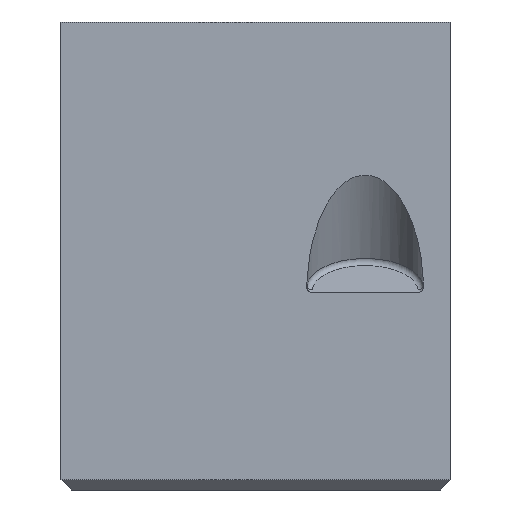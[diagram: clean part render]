
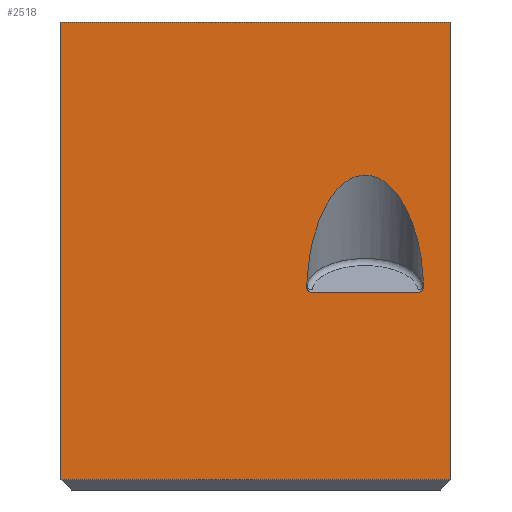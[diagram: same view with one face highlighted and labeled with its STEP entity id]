
A CAD part, left-side view. The second image highlights one B-rep face of the part: STEP entity #2518.
In plain terms, the highlighted planar face has unit normal (-1, 0, 0).
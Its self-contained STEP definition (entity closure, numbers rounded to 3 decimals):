
#203=DIRECTION('',(0.,1.,0.));
#204=VECTOR('',#203,15.);
#205=CARTESIAN_POINT('',(-3.,-15.,0.));
#206=LINE('',#205,#204);
#521=DIRECTION('',(0.,0.,-1.));
#522=VECTOR('',#521,17.6);
#523=CARTESIAN_POINT('',(-3.,-15.,0.));
#524=LINE('',#523,#522);
#525=DIRECTION('',(0.,1.,0.));
#526=VECTOR('',#525,15.);
#527=CARTESIAN_POINT('',(-3.,-15.,-17.6));
#528=LINE('',#527,#526);
#529=CARTESIAN_POINT('',(-3.,-13.941,-10.));
#530=CARTESIAN_POINT('',(-3.,-13.939,-9.933));
#531=CARTESIAN_POINT('',(-3.,-13.933,-9.83));
#532=CARTESIAN_POINT('',(-3.,-13.921,-9.665));
#533=CARTESIAN_POINT('',(-3.,-13.906,-9.505));
#534=CARTESIAN_POINT('',(-3.,-13.889,-9.347));
#535=CARTESIAN_POINT('',(-3.,-13.866,-9.165));
#536=CARTESIAN_POINT('',(-3.,-13.836,-8.975));
#537=CARTESIAN_POINT('',(-3.,-13.801,-8.78));
#538=CARTESIAN_POINT('',(-3.,-13.766,-8.609));
#539=CARTESIAN_POINT('',(-3.,-13.72,-8.404));
#540=CARTESIAN_POINT('',(-3.,-13.661,-8.181));
#541=CARTESIAN_POINT('',(-3.,-13.591,-7.95));
#542=CARTESIAN_POINT('',(-3.,-13.521,-7.746));
#543=CARTESIAN_POINT('',(-3.,-13.451,-7.564));
#544=CARTESIAN_POINT('',(-3.,-13.358,-7.344));
#545=CARTESIAN_POINT('',(-3.,-13.241,-7.106));
#546=CARTESIAN_POINT('',(-3.,-13.101,-6.865));
#547=CARTESIAN_POINT('',(-3.,-12.961,-6.66));
#548=CARTESIAN_POINT('',(-3.,-12.821,-6.486));
#549=CARTESIAN_POINT('',(-3.,-12.681,-6.338));
#550=CARTESIAN_POINT('',(-3.,-12.494,-6.173));
#551=CARTESIAN_POINT('',(-3.,-12.26,-6.021));
#552=CARTESIAN_POINT('',(-3.,-11.98,-5.915));
#553=CARTESIAN_POINT('',(-3.,-11.7,-5.881));
#554=CARTESIAN_POINT('',(-3.,-11.42,-5.915));
#555=CARTESIAN_POINT('',(-3.,-11.14,-6.021));
#556=CARTESIAN_POINT('',(-3.,-10.906,-6.173));
#557=CARTESIAN_POINT('',(-3.,-10.719,-6.338));
#558=CARTESIAN_POINT('',(-3.,-10.579,-6.486));
#559=CARTESIAN_POINT('',(-3.,-10.439,-6.66));
#560=CARTESIAN_POINT('',(-3.,-10.299,-6.865));
#561=CARTESIAN_POINT('',(-3.,-10.159,-7.106));
#562=CARTESIAN_POINT('',(-3.,-10.042,-7.344));
#563=CARTESIAN_POINT('',(-3.,-9.949,-7.564));
#564=CARTESIAN_POINT('',(-3.,-9.879,-7.746));
#565=CARTESIAN_POINT('',(-3.,-9.809,-7.95));
#566=CARTESIAN_POINT('',(-3.,-9.739,-8.181));
#567=CARTESIAN_POINT('',(-3.,-9.68,-8.404));
#568=CARTESIAN_POINT('',(-3.,-9.634,-8.609));
#569=CARTESIAN_POINT('',(-3.,-9.599,-8.78));
#570=CARTESIAN_POINT('',(-3.,-9.564,-8.975));
#571=CARTESIAN_POINT('',(-3.,-9.534,-9.165));
#572=CARTESIAN_POINT('',(-3.,-9.511,-9.347));
#573=CARTESIAN_POINT('',(-3.,-9.494,-9.505));
#574=CARTESIAN_POINT('',(-3.,-9.479,-9.665));
#575=CARTESIAN_POINT('',(-3.,-9.467,-9.83));
#576=CARTESIAN_POINT('',(-3.,-9.461,-9.933));
#577=CARTESIAN_POINT('',(-3.,-9.459,-10.));
#579=DIRECTION('',(0.,0.044,-0.999));
#580=VECTOR('',#579,0.161);
#581=CARTESIAN_POINT('',(-3.,-9.459,-10.));
#582=LINE('',#581,#580);
#583=CARTESIAN_POINT('',(-3.,-9.452,-10.161));
#584=CARTESIAN_POINT('',(-3.,-9.45,-10.197));
#585=CARTESIAN_POINT('',(-3.,-9.46,-10.256));
#586=CARTESIAN_POINT('',(-3.,-9.497,-10.324));
#587=CARTESIAN_POINT('',(-3.,-9.554,-10.374));
#588=CARTESIAN_POINT('',(-3.,-9.606,-10.392));
#589=CARTESIAN_POINT('',(-3.,-9.642,-10.392));
#591=DIRECTION('',(0.,0.,-1.));
#592=VECTOR('',#591,17.6);
#593=CARTESIAN_POINT('',(-3.,0.,0.));
#594=LINE('',#593,#592);
#729=DIRECTION('',(0.,1.,0.));
#730=VECTOR('',#729,4.116);
#731=CARTESIAN_POINT('',(-3.,-13.758,
-10.392));
#732=LINE('',#731,#730);
#758=DIRECTION('',(0.,-0.044,-0.999));
#759=VECTOR('',#758,0.161);
#760=CARTESIAN_POINT('',(-3.,-13.941,-10.));
#761=LINE('',#760,#759);
#762=CARTESIAN_POINT('',(-3.,-13.948,-10.161));
#763=CARTESIAN_POINT('',(-3.,-13.95,-10.197));
#764=CARTESIAN_POINT('',(-3.,-13.94,-10.256));
#765=CARTESIAN_POINT('',(-3.,-13.903,-10.324));
#766=CARTESIAN_POINT('',(-3.,-13.846,-10.374));
#767=CARTESIAN_POINT('',(-3.,-13.794,-10.392));
#768=CARTESIAN_POINT('',(-3.,-13.758,-10.392));
#828=CARTESIAN_POINT('',(-3.,0.,-17.6));
#829=VERTEX_POINT('',#828);
#830=CARTESIAN_POINT('',(-3.,-15.,-17.6));
#831=VERTEX_POINT('',#830);
#842=CARTESIAN_POINT('',(-3.,-15.,0.));
#843=VERTEX_POINT('',#842);
#851=CARTESIAN_POINT('',(-3.,0.,0.));
#852=VERTEX_POINT('',#851);
#868=CARTESIAN_POINT('',(-3.,-13.758,
-10.392));
#869=CARTESIAN_POINT('',(-3.,-9.642,-10.392));
#870=VERTEX_POINT('',#868);
#871=VERTEX_POINT('',#869);
#872=VERTEX_POINT('',#762);
#873=CARTESIAN_POINT('',(-3.,-13.941,-10.));
#874=VERTEX_POINT('',#873);
#875=VERTEX_POINT('',#577);
#876=CARTESIAN_POINT('',(-3.,-9.452,-10.161));
#877=VERTEX_POINT('',#876);
#2492=CARTESIAN_POINT('',(-3.,0.,-18.));
#2493=DIRECTION('',(-1.,0.,0.));
#2494=DIRECTION('',(0.,-1.,0.));
#2495=AXIS2_PLACEMENT_3D('',#2492,#2493,#2494);
#2496=PLANE('',#2495);
#2498=ORIENTED_EDGE('',*,*,#2497,.F.);
#2499=ORIENTED_EDGE('',*,*,#1181,.F.);
#2500=ORIENTED_EDGE('',*,*,#1144,.T.);
#2501=ORIENTED_EDGE('',*,*,#1084,.T.);
#2502=EDGE_LOOP('',(#2498,#2499,#2500,#2501));
#2503=FACE_OUTER_BOUND('',#2502,.F.);
#2505=ORIENTED_EDGE('',*,*,#2504,.F.);
#2507=ORIENTED_EDGE('',*,*,#2506,.F.);
#2509=ORIENTED_EDGE('',*,*,#2508,.F.);
#2511=ORIENTED_EDGE('',*,*,#2510,.T.);
#2513=ORIENTED_EDGE('',*,*,#2512,.T.);
#2515=ORIENTED_EDGE('',*,*,#2514,.T.);
#2516=EDGE_LOOP('',(#2505,#2507,#2509,#2511,#2513,#2515));
#2517=FACE_BOUND('',#2516,.F.);
#2518=ADVANCED_FACE('',(#2503,#2517),#2496,.T.);
#578=B_SPLINE_CURVE_WITH_KNOTS('',3,(#529,#530,#531,#532,#533,#534,#535,#536,
#537,#538,#539,#540,#541,#542,#543,#544,#545,#546,#547,#548,#549,#550,#551,#552,
#553,#554,#555,#556,#557,#558,#559,#560,#561,#562,#563,#564,#565,#566,#567,#568,
#569,#570,#571,#572,#573,#574,#575,#576,#577),.UNSPECIFIED.,.F.,.F.,(4,1,1,1,1,
1,1,1,1,1,1,1,1,1,1,1,1,1,1,1,1,1,1,1,1,1,1,1,1,1,1,1,1,1,1,1,1,1,1,1,1,1,1,1,1,
1,4),(0.,0.002,0.004,0.008,0.012,0.016,0.023,
0.031,0.039,0.047,0.063,0.078,0.094,0.109,0.125,
0.156,0.188,0.219,0.25,0.281,0.313,0.375,0.438,0.5,
0.563,0.625,0.688,0.719,0.75,0.781,0.813,0.844,0.875,
0.891,0.906,0.922,0.938,0.953,0.961,0.969,
0.977,0.984,0.988,0.992,0.996,0.998,
1.),.UNSPECIFIED.);
#590=B_SPLINE_CURVE_WITH_KNOTS('',3,(#583,#584,#585,#586,#587,#588,#589),
.UNSPECIFIED.,.F.,.F.,(4,1,1,1,4),(0.,0.25,0.5,0.75,1.),
.UNSPECIFIED.);
#769=B_SPLINE_CURVE_WITH_KNOTS('',3,(#762,#763,#764,#765,#766,#767,#768),
.UNSPECIFIED.,.F.,.F.,(4,1,1,1,4),(0.,0.25,0.5,0.75,1.),
.UNSPECIFIED.);
#1084=EDGE_CURVE('',#831,#829,#528,.T.);
#1144=EDGE_CURVE('',#843,#831,#524,.T.);
#1181=EDGE_CURVE('',#843,#852,#206,.T.);
#2497=EDGE_CURVE('',#852,#829,#594,.T.);
#2504=EDGE_CURVE('',#870,#871,#732,.T.);
#2506=EDGE_CURVE('',#872,#870,#769,.T.);
#2508=EDGE_CURVE('',#874,#872,#761,.T.);
#2510=EDGE_CURVE('',#874,#875,#578,.T.);
#2512=EDGE_CURVE('',#875,#877,#582,.T.);
#2514=EDGE_CURVE('',#877,#871,#590,.T.);
